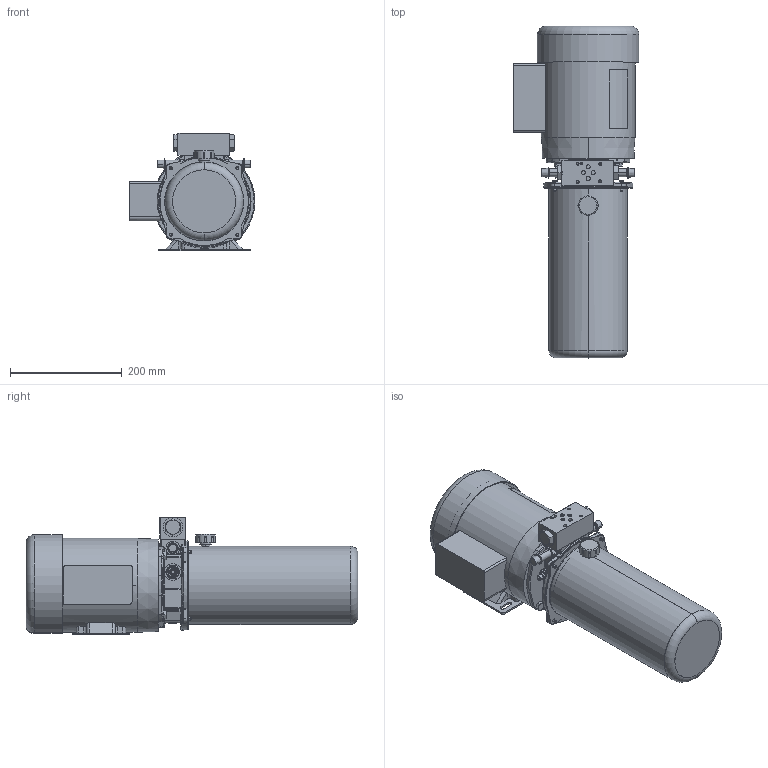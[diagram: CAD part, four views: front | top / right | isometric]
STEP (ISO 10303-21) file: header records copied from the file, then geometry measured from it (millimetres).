
FILE_DESCRIPTION((''),'2;1');
FILE_NAME('649054_SW0001','2015-01-22T',('GB10196'),('OILDYNE'),'PRO/ENGINEER BY PARAMETRIC TECHNOLOGY CORPORATION, 2009300','PRO/ENGINEER BY PARAMETRIC TECHNOLOGY CORPORATION, 2009300','');
FILE_SCHEMA(('CONFIG_CONTROL_DESIGN'));
Products named in the file (1): 649054_SW0001
Bounding box: 225.67 x 594.92 x 211.28 mm (x, y, z)
Surface area: 677522 mm2 (no closed solid volume)
Topology: 0 solids, 54 shells, 1203 faces, 3199 edges, 2037 vertices
Faces by surface type: cylinder 359, plane 309, bspline 226, cone 186, sphere 64, torus 59
Entity records: 49095 total; most frequent: CARTESIAN_POINT 21531, ORIENTED_EDGE 5732, DIRECTION 5329, EDGE_CURVE 3186, AXIS2_PLACEMENT_3D 2146, VERTEX_POINT 2037, EDGE_LOOP 1331, FACE_OUTER_BOUND 1203
